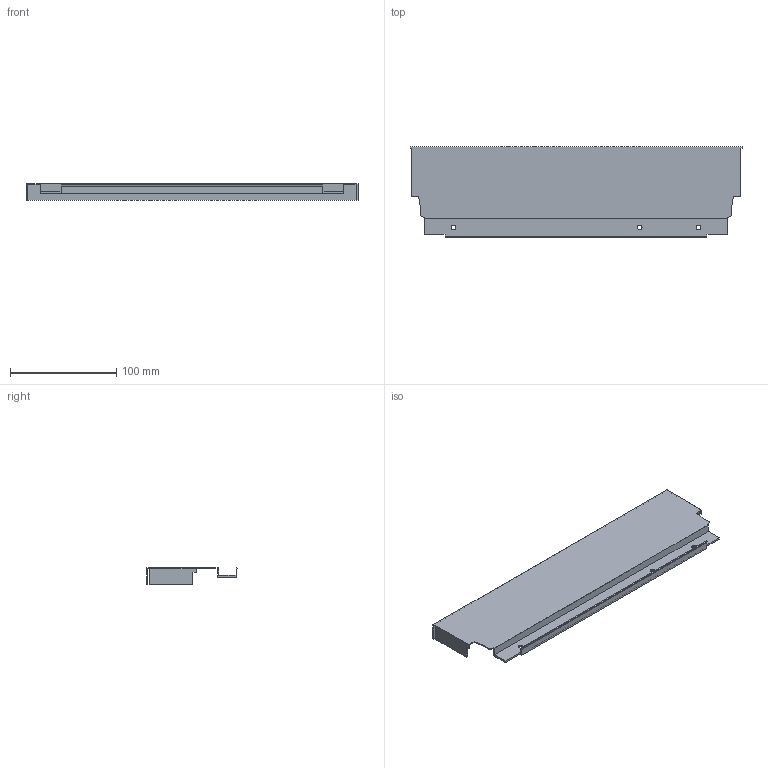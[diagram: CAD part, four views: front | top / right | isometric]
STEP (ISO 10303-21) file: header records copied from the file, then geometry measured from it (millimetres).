
FILE_DESCRIPTION (( 'STEP AP214' ), '1' );
FILE_NAME ('_DWD_XP Stahlrückwand_H86_KAB400_S19.step', '2010-07-08T12:10:30', ( 'grass' ), ( '' ), 'SwSTEP 2.0', 'SolidWorks 2010', '' );
FILE_SCHEMA (( 'AUTOMOTIVE_DESIGN' ));
Length unit declared in the file: millimetre
Products named in the file (1): _DWD_XP Stahlrückwand_H86_KAB400_S19
Bounding box: 313 x 85.79 x 16 mm (x, y, z)
Volume: 32904.2 mm3; surface area: 72304.9 mm2
Topology: 1 solids, 1 shells, 50 faces, 144 edges, 96 vertices
Faces by surface type: plane 44, cylinder 6
Entity records: 1666 total; most frequent: CARTESIAN_POINT 291, ORIENTED_EDGE 288, DIRECTION 258, EDGE_CURVE 144, VECTOR 132, LINE 132, VERTEX_POINT 96, AXIS2_PLACEMENT_3D 63
